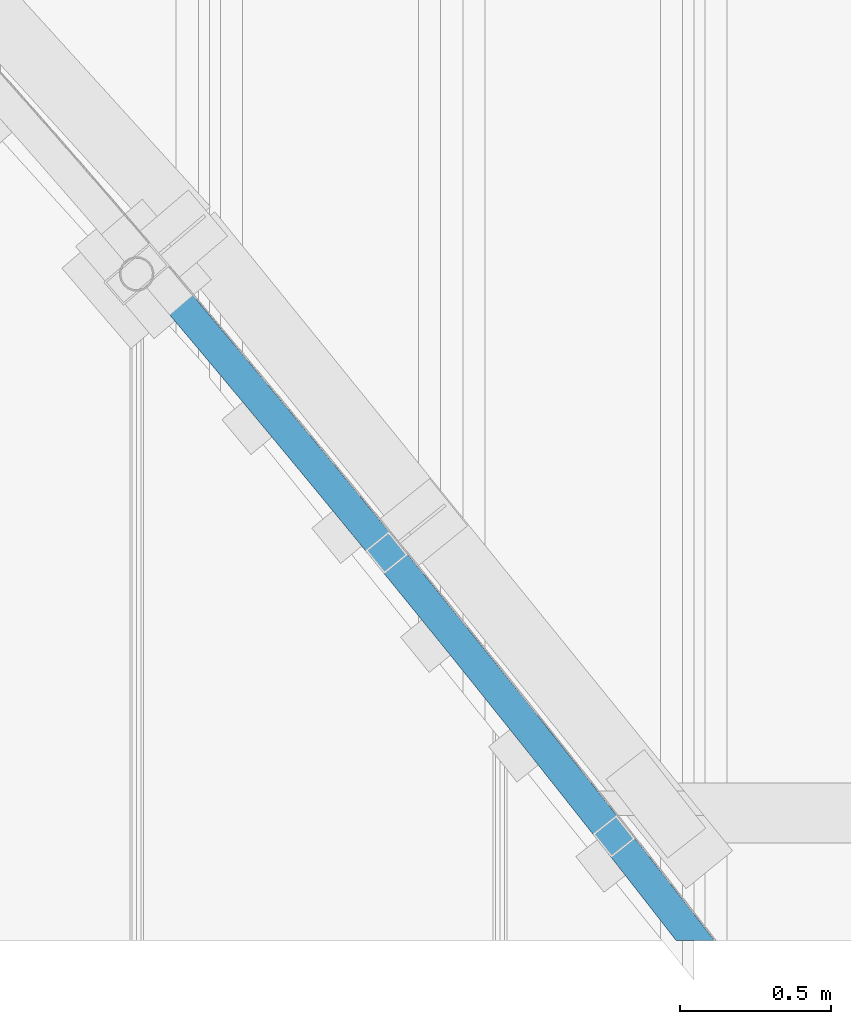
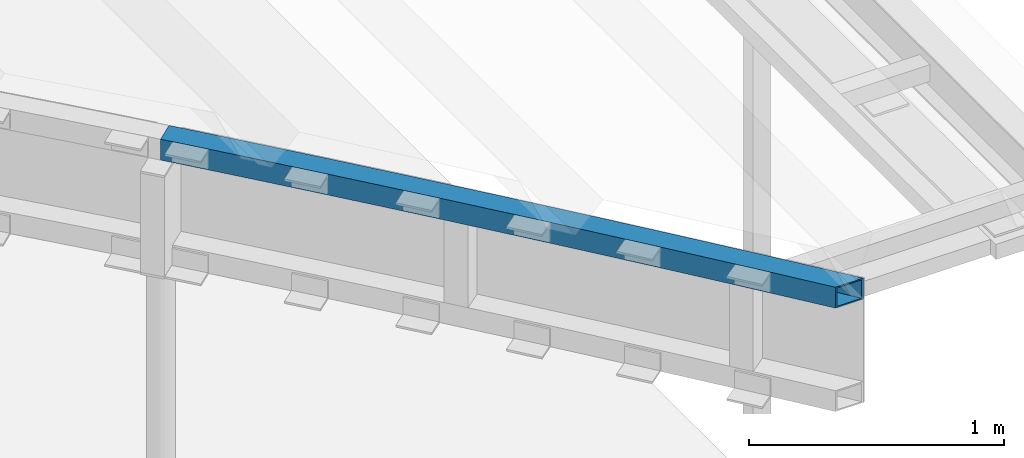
# One storey, part 21 of 98: 1 beam.
"""IFC2X3 building model written with IfcOpenShell, lengths in millimetres."""

from ifc_helpers import new_model, entity, si_unit, converted_unit, derived_unit, direction, frame, origin_with_axes, place, context, subcontext, project, spatial, faceted_brep, type_object, element, save


model = new_model("IFC2X3")

# Units and contexts
model_context = context("Model", 3, precision=0.01, world=frame((0.0, 4.29681676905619e-09, 0.0)), true_north=direction((4.01073788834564e-13, 1.0)))
plan_context = context("Plan", 3, precision=0.01, world=frame((0.0, 4.29681676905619e-09, 0.0)), true_north=direction((4.01073788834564e-13, 1.0)))
body_context = subcontext(model_context, "Body", "Model", "MODEL_VIEW")
ifc_project = project(units=[converted_unit("PLANEANGLEUNIT", "DEGREE", entity("IfcPositiveLengthMeasure", 0.0174532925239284), si_unit("PLANEANGLEUNIT", "RADIAN"), dimensions=[0, 0, 0, 0, 0, 0, 0]), si_unit("AREAUNIT", "SQUARE_METRE"), si_unit("LENGTHUNIT", "METRE", prefix="MILLI"), si_unit("MASSUNIT", "GRAM", prefix="KILO"), si_unit("POWERUNIT", "WATT"), si_unit("PRESSUREUNIT", "PASCAL"), si_unit("FORCEUNIT", "NEWTON", prefix="KILO"), si_unit("ELECTRICCURRENTUNIT", "AMPERE"), si_unit("THERMODYNAMICTEMPERATUREUNIT", "DEGREE_CELSIUS"), si_unit("TIMEUNIT", "SECOND"), si_unit("VOLUMEUNIT", "CUBIC_METRE"), derived_unit("LINEARVELOCITYUNIT", [(si_unit("LENGTHUNIT", "METRE"), 1), (si_unit("TIMEUNIT", "SECOND"), -1)]), derived_unit("VOLUMETRICFLOWRATEUNIT", [(si_unit("VOLUMEUNIT", "CUBIC_METRE"), 1), (si_unit("TIMEUNIT", "SECOND"), -1)]), derived_unit("THERMALTRANSMITTANCEUNIT", [(si_unit("POWERUNIT", "WATT"), 1), (si_unit("THERMODYNAMICTEMPERATUREUNIT", "KELVIN"), -1), (si_unit("AREAUNIT", "SQUARE_METRE"), -1)])], contexts=[model_context, plan_context])

# Site, building, storey
site_placement = place(None, frame((0.0, -4.29681676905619e-09, 0.0), z_axis=(0.0, 0.0, 1.0), x_axis=(1.0, 0.0, 0.0)))
site = spatial("IfcSite", under=ifc_project, at=site_placement, Name="Gardermoen", CompositionType="ELEMENT")
building_placement = place(site_placement, frame((0.0, 4.29681676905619e-09, 0.0), z_axis=(0.0, 0.0, 1.0), x_axis=(1.0, 0.0, 0.0)))
building = spatial("IfcBuilding", under=site, at=building_placement, Name="TS", CompositionType="ELEMENT")
storey_placement = place(building_placement, origin_with_axes())
storey = spatial("IfcBuildingStorey", under=building, at=storey_placement, Name="D", CompositionType="ELEMENT", Elevation=0.0)

# Beam
beam_type = type_object("IfcBeamType", Name="RHS100*6.3", PredefinedType="NOTDEFINED")
beam_placement = place(storey_placement, frame((529157.519512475, 402932.753920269, 207050.0), z_axis=(0.0, 0.0, 1.0), x_axis=(0.616783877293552, -0.787132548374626, 0.0)))
element("IfcBeam", 1, at=beam_placement, inside=storey, type_object=beam_type, Name="STÅLBJELKE", ObjectType="RHS100*6.3", context=body_context, shape_type="Brep", body=[
    faceted_brep([(-96.4603273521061, 46.525295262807, 50.0), (-92.7550461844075, -53.4060356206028, 50.0), (-187.286511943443, -56.9785677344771, 50.0), (-191.134234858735, 42.9473799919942, 50.0), (-1.78141594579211, 49.9682554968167, 50.0), (1.78141594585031, -49.9682554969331, 50.0), (92.9023069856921, 53.2762536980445, 50.0), (96.3226823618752, -46.6652343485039, 50.0), (187.590649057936, 56.4492831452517, 50.0), (190.868560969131, -43.4969788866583, 50.0), (282.283417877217, 59.4873373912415, 50.0), (285.418859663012, -40.4634955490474, 50.0), (376.980421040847, 62.3904102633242, 50.0), (379.97338633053, -37.5647904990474, 50.0), (471.681466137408, 65.1584958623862, 50.0), (474.531948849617, -34.8008696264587, 50.0), (566.386360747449, 67.7915885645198, 50.0), (569.094355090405, -32.1717385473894, 50.0), (661.094912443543, 70.2896830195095, 50.0), (663.660412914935, -29.6774026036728, 50.0), (755.806928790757, 72.6527741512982, 50.0), (758.229930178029, -27.3178668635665, 50.0), (850.522217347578, 74.8808571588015, 50.0), (852.802714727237, -25.0931361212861, 50.0), (945.24058566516, 76.9739275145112, 50.0), (947.37857440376, -23.0032148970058, 50.0), (1039.96184128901, 78.9319809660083, 50.0), (1041.9573170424, -21.0481074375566, 50.0), (1134.68579175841, 80.75501353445, 50.0), (1136.53875047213, -19.2278177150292, 50.0), (1229.41224460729, 82.4430215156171, 50.0), (1231.12268251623, -17.5423494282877, 50.0), (1324.14100736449, 83.9960014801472, 50.0), (1325.70892099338, -15.9917060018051, 50.0), (1418.87188755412, 85.4139502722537, 50.0), (1420.29727371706, -14.5758905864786, 50.0), (1513.60469269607, 86.6968650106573, 50.0), (1514.887548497, -13.2949060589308, 50.0), (1608.3392303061, 87.8447430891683, 50.0), (1609.47955313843, -12.1487550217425, 50.0), (1703.07530789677, 88.8575821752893, 50.0), (1704.07309544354, -11.1374398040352, 50.0), (1797.81273297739, 89.7353802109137, 50.0), (1798.66798321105, -10.2609624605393, 50.0), (1892.55131305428, 90.4781354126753, 50.0), (1893.26402423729, -9.51932477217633, 50.0), (1987.29085563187, 91.0858462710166, 50.0), (1987.86102631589, -8.91252824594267, 50.0), (2082.03116821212, 91.5585115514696, 50.0), (2082.45879723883, -8.44057411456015, 50.0), (2176.77205829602, 91.8961302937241, 50.0), (2177.05714479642, -8.10346333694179, 50.0), (2271.51333338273, 92.098701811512, 50.0), (2271.65587677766, -7.90119659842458, 50.0), (2366.25480097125, 92.1662256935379, 50.0), (2366.25480097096, -7.83377430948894, 50.0), (2460.99626855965, 92.0987018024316, 50.0), (2460.85372516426, -7.90119660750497, 50.0), (2555.73754364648, 91.8961302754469, 50.0), (2555.4524571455, -8.10346335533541, 50.0), (2650.07917790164, -1.80563186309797, 50.0), (2644.89454651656, -8.42219929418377, 50.0), (2650.47843373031, 91.5585115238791, 50.0), (2722.95442276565, 91.1969243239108, 50.0), (-191.91472664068, 42.9167694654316, 50.0), (-96.4603273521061, 46.525295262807, -50.0), (-191.134234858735, 42.9473799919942, -50.0), (-1.78141594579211, 49.9682554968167, -50.0), (92.9023069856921, 53.2762536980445, -50.0), (187.590649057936, 56.4492831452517, -50.0), (282.283417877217, 59.4873373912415, -50.0), (376.980421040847, 62.3904102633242, -50.0), (471.681466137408, 65.1584958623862, -50.0), (566.386360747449, 67.7915885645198, -50.0), (661.094912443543, 70.2896830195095, -50.0), (755.806928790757, 72.6527741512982, -50.0), (850.522217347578, 74.8808571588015, -50.0), (945.24058566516, 76.9739275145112, -50.0), (1039.96184128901, 78.9319809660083, -50.0), (1134.68579175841, 80.75501353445, -50.0), (1229.41224460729, 82.4430215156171, -50.0), (1324.14100736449, 83.9960014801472, -50.0), (1418.87188755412, 85.4139502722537, -50.0), (1513.60469269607, 86.6968650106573, -50.0), (1608.3392303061, 87.8447430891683, -50.0), (1703.07530789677, 88.8575821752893, -50.0), (1797.81273297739, 89.7353802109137, -50.0), (1892.55131305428, 90.4781354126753, -50.0), (1987.29085563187, 91.0858462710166, -50.0), (2082.03116821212, 91.5585115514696, -50.0), (2176.77205829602, 91.8961302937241, -50.0), (2271.51333338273, 92.098701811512, -50.0), (2366.25480097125, 92.1662256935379, -50.0), (2460.99626855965, 92.0987018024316, -50.0), (2555.73754364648, 91.8961302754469, -50.0), (2650.47843373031, 91.5585115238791, -50.0), (2722.95442276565, 91.1969243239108, -50.0), (-191.91472664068, 42.9167694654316, -50.0), (-92.7550461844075, -53.4060356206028, -50.0), (-187.286511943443, -56.9785677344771, -50.0), (1.78141594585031, -49.9682554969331, -50.0), (96.3226823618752, -46.6652343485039, -50.0), (190.868560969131, -43.4969788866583, -50.0), (285.418859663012, -40.4634955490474, -50.0), (379.97338633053, -37.5647904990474, -50.0), (474.531948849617, -34.8008696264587, -50.0), (569.094355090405, -32.1717385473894, -50.0), (663.660412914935, -29.6774026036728, -50.0), (758.229930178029, -27.3178668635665, -50.0), (852.802714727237, -25.0931361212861, -50.0), (947.37857440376, -23.0032148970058, -50.0), (1041.9573170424, -21.0481074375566, -50.0), (1136.53875047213, -19.2278177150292, -50.0), (1231.12268251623, -17.5423494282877, -50.0), (1325.70892099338, -15.9917060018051, -50.0), (1420.29727371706, -14.5758905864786, -50.0), (1514.887548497, -13.2949060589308, -50.0), (1609.47955313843, -12.1487550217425, -50.0), (1704.07309544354, -11.1374398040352, -50.0), (1798.66798321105, -10.2609624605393, -50.0), (1893.26402423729, -9.51932477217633, -50.0), (1987.86102631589, -8.91252824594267, -50.0), (2082.45879723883, -8.44057411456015, -50.0), (2177.05714479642, -8.10346333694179, -50.0), (2271.65587677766, -7.90119659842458, -50.0), (2366.25480097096, -7.83377430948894, -50.0), (2460.85372516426, -7.90119660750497, -50.0), (2555.4524571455, -8.10346335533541, -50.0), (2644.89454651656, -8.42219929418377, -50.0), (2650.07917790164, -1.80563186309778, -50.0), (-191.6362580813, 36.6228489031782, -43.6999998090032), (-191.6362580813, 36.6228489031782, 43.6999998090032), (-190.891828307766, 36.6520450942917, 43.6999998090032), (-190.891828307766, 36.6520450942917, -43.6999998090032), (-96.226894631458, 40.2296212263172, 43.6999998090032), (-96.226894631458, 40.2296212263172, -43.6999998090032), (-1.55695752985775, 43.6722551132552, 43.6999998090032), (-1.55695752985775, 43.6722551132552, -43.6999998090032), (93.1177906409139, 46.979939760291, 43.6999998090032), (93.1177906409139, 46.979939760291, -43.6999998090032), (187.797157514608, 50.1526684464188, 43.6999998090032), (187.797157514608, 50.1526684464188, -43.6999998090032), (282.480950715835, 53.1904347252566, 43.6999998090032), (282.480950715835, 53.1904347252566, -43.6999998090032), (377.168977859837, 56.0932324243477, 43.6999998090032), (377.168977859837, 56.0932324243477, -43.6999998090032), (471.861046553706, 58.8610556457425, 43.6999998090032), (471.861046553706, 58.8610556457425, -43.6999998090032), (566.556964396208, 61.4938987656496, 43.6999998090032), (566.556964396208, 61.4938987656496, -43.6999998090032), (661.256538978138, 63.9917564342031, 43.6999998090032), (661.256538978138, 63.9917564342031, -43.6999998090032), (755.959577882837, 66.3546235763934, 43.6999998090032), (755.959577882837, 66.3546235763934, -43.6999998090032), (850.665888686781, 68.5824953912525, 43.6999998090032), (850.665888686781, 68.5824953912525, -43.6999998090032), (945.375278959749, 70.6753673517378, 43.6999998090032), (945.375278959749, 70.6753673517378, -43.6999998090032), (1040.08755626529, 72.633235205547, 43.6999998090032), (1040.08755626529, 72.633235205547, -43.6999998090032), (1134.80252816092, 74.4560949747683, 43.6999998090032), (1134.80252816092, 74.4560949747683, -43.6999998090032), (1229.52000219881, 76.1439429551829, 43.6999998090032), (1229.52000219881, 76.1439429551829, -43.6999998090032), (1324.23978592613, 77.6967757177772, 43.6999998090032), (1324.23978592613, 77.6967757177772, -43.6999998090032), (1418.96168688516, 79.1145901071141, 43.6999998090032), (1418.96168688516, 79.1145901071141, -43.6999998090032), (1513.68551261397, 80.3973832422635, 43.6999998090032), (1513.68551261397, 80.3973832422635, -43.6999998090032), (1608.41107064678, 81.5451525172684, 43.6999998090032), (1608.41107064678, 81.5451525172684, -43.6999998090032), (1703.13816851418, 82.5578955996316, 43.6999998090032), (1703.13816851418, 82.5578955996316, -43.6999998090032), (1797.86661374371, 83.4356104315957, 43.6999998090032), (1797.86661374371, 83.4356104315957, -43.6999998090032), (1892.5962138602, 84.1782952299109, 43.6999998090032), (1892.5962138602, 84.1782952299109, -43.6999998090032), (1987.32677638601, 84.7859484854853, 43.6999998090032), (1987.32677638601, 84.7859484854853, -43.6999998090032), (2082.05810884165, 85.258568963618, 43.6999998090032), (2082.05810884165, 85.258568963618, -43.6999998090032), (2176.79001874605, 85.5961557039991, 43.6999998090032), (2176.79001874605, 85.5961557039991, -43.6999998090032), (2271.52231361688, 85.7987080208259, 43.6999998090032), (2271.52231361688, 85.7987080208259, -43.6999998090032), (2366.25480097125, 85.8662255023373, 43.6999998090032), (2366.25480097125, 85.8662255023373, -43.6999998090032), (2460.98728832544, 85.7987080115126, 43.6999998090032), (2460.98728832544, 85.7987080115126, -43.6999998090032), (2555.71958319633, 85.5961556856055, 43.6999998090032), (2555.71958319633, 85.5961556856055, -43.6999998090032), (2650.45149310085, 85.2585689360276, 43.6999998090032), (2650.45149310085, 85.2585689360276, -43.6999998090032), (2718.03701184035, 84.9213805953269, 43.6999998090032), (2718.03701184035, 84.9213805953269, -43.6999998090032), (-187.52891849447, -50.6832328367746, -43.6999998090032), (-92.9884789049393, -47.1103615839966, -43.6999998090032), (1.55695752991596, -43.6722551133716, -43.6999998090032), (96.1071987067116, -40.368920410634, -43.6999998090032), (190.66205251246, -37.2003641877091, -43.6999998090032), (285.22132682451, -34.1665928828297, -43.6999998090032), (379.784829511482, -31.2676126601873, -43.6999998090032), (474.352368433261, -28.503429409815, -43.6999998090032), (568.923751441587, -25.8740487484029, -43.6999998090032), (663.49878638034, -23.3794760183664, -43.6999998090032), (758.077281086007, -21.0197162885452, -43.6999998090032), (852.659043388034, -18.7947743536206, -43.6999998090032), (947.243881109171, -16.7046547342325, -43.6999998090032), (1041.83160206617, -14.7493616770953, -43.6999998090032), (1136.42201406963, -12.9288991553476, -43.6999998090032), (1231.0149249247, -11.2432708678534, -43.6999998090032), (1325.61014243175, -9.69248023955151, -43.6999998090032), (1420.20747438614, -8.27653042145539, -43.6999998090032), (1514.80672857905, -6.9954242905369, -43.6999998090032), (1609.40771279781, -5.84916444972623, -43.6999998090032), (1704.01023482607, -4.83775322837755, -43.6999998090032), (1798.61410244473, -3.96119268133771, -43.6999998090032), (1893.21912343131, -3.21948458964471, -43.6999998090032), (1987.82510556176, -2.61263046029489, -43.6999998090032), (2082.43185660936, -2.14063152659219, -43.6999998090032), (2177.03918434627, -1.80348874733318, -43.6999998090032), (2271.64689654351, -1.60120280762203, -43.6999998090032), (2366.25480097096, -1.53377411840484, -43.6999998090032), (2460.86270539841, -1.60120281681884, -43.6999998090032), (2555.47041759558, -1.8034887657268, -43.6999998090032), (2650.07917790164, -1.80563186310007, -43.6999998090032), (2649.81740472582, -2.13970380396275, -43.6999998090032), (-92.9884789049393, -47.1103615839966, 43.6999998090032), (-187.52891849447, -50.6832328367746, 43.6999998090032), (1.55695752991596, -43.6722551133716, 43.6999998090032), (96.1071987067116, -40.368920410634, 43.6999998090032), (190.66205251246, -37.2003641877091, 43.6999998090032), (285.22132682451, -34.1665928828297, 43.6999998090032), (379.784829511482, -31.2676126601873, 43.6999998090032), (474.352368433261, -28.503429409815, 43.6999998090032), (568.923751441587, -25.8740487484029, 43.6999998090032), (663.49878638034, -23.3794760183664, 43.6999998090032), (758.077281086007, -21.0197162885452, 43.6999998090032), (852.659043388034, -18.7947743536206, 43.6999998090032), (947.243881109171, -16.7046547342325, 43.6999998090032), (1041.83160206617, -14.7493616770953, 43.6999998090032), (1136.42201406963, -12.9288991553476, 43.6999998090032), (1231.0149249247, -11.2432708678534, 43.6999998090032), (1325.61014243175, -9.69248023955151, 43.6999998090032), (1420.20747438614, -8.27653042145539, 43.6999998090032), (1514.80672857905, -6.9954242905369, 43.6999998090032), (1609.40771279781, -5.84916444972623, 43.6999998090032), (1704.01023482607, -4.83775322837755, 43.6999998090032), (1798.61410244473, -3.96119268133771, 43.6999998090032), (1893.21912343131, -3.21948458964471, 43.6999998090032), (1987.82510556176, -2.61263046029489, 43.6999998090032), (2082.43185660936, -2.14063152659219, 43.6999998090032), (2177.03918434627, -1.80348874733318, 43.6999998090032), (2271.64689654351, -1.60120280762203, 43.6999998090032), (2366.25480097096, -1.53377411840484, 43.6999998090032), (2460.86270539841, -1.60120281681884, 43.6999998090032), (2555.47041759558, -1.8034887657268, 43.6999998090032), (2649.81740472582, -2.13970380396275, 43.6999998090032), (2650.07917790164, -1.80563186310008, 43.6999998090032)], [[[0, 1, 2, 3]], [[4, 5, 1, 0]], [[6, 7, 5, 4]], [[8, 9, 7, 6]], [[10, 11, 9, 8]], [[12, 13, 11, 10]], [[14, 15, 13, 12]], [[16, 17, 15, 14]], [[18, 19, 17, 16]], [[20, 21, 19, 18]], [[22, 23, 21, 20]], [[24, 25, 23, 22]], [[26, 27, 25, 24]], [[28, 29, 27, 26]], [[30, 31, 29, 28]], [[32, 33, 31, 30]], [[34, 35, 33, 32]], [[36, 37, 35, 34]], [[38, 39, 37, 36]], [[40, 41, 39, 38]], [[42, 43, 41, 40]], [[44, 45, 43, 42]], [[46, 47, 45, 44]], [[48, 49, 47, 46]], [[50, 51, 49, 48]], [[52, 53, 51, 50]], [[54, 55, 53, 52]], [[56, 57, 55, 54]], [[58, 59, 57, 56]], [[60, 61, 59, 58, 62]], [[63, 60, 62]], [[2, 64, 3]], [[65, 0, 3, 66]], [[67, 4, 0, 65]], [[68, 6, 4, 67]], [[69, 8, 6, 68]], [[70, 10, 8, 69]], [[71, 12, 10, 70]], [[72, 14, 12, 71]], [[73, 16, 14, 72]], [[74, 18, 16, 73]], [[75, 20, 18, 74]], [[76, 22, 20, 75]], [[77, 24, 22, 76]], [[78, 26, 24, 77]], [[79, 28, 26, 78]], [[80, 30, 28, 79]], [[81, 32, 30, 80]], [[82, 34, 32, 81]], [[83, 36, 34, 82]], [[84, 38, 36, 83]], [[85, 40, 38, 84]], [[86, 42, 40, 85]], [[87, 44, 42, 86]], [[88, 46, 44, 87]], [[89, 48, 46, 88]], [[90, 50, 48, 89]], [[91, 52, 50, 90]], [[92, 54, 52, 91]], [[93, 56, 54, 92]], [[94, 58, 56, 93]], [[95, 62, 58, 94]], [[96, 63, 62, 95]], [[64, 97, 66, 3]], [[98, 65, 66, 99]], [[100, 67, 65, 98]], [[101, 68, 67, 100]], [[102, 69, 68, 101]], [[103, 70, 69, 102]], [[104, 71, 70, 103]], [[105, 72, 71, 104]], [[106, 73, 72, 105]], [[107, 74, 73, 106]], [[108, 75, 74, 107]], [[109, 76, 75, 108]], [[110, 77, 76, 109]], [[111, 78, 77, 110]], [[112, 79, 78, 111]], [[113, 80, 79, 112]], [[114, 81, 80, 113]], [[115, 82, 81, 114]], [[116, 83, 82, 115]], [[117, 84, 83, 116]], [[118, 85, 84, 117]], [[119, 86, 85, 118]], [[120, 87, 86, 119]], [[121, 88, 87, 120]], [[122, 89, 88, 121]], [[123, 90, 89, 122]], [[124, 91, 90, 123]], [[125, 92, 91, 124]], [[126, 93, 92, 125]], [[127, 94, 93, 126]], [[128, 129, 95, 94, 127]], [[129, 96, 95]], [[97, 99, 66]], [[64, 2, 99, 97]], [[99, 2, 1, 98]], [[5, 100, 98, 1]], [[7, 101, 100, 5]], [[9, 102, 101, 7]], [[11, 103, 102, 9]], [[13, 104, 103, 11]], [[15, 105, 104, 13]], [[17, 106, 105, 15]], [[19, 107, 106, 17]], [[21, 108, 107, 19]], [[23, 109, 108, 21]], [[25, 110, 109, 23]], [[27, 111, 110, 25]], [[29, 112, 111, 27]], [[31, 113, 112, 29]], [[33, 114, 113, 31]], [[35, 115, 114, 33]], [[37, 116, 115, 35]], [[39, 117, 116, 37]], [[41, 118, 117, 39]], [[43, 119, 118, 41]], [[45, 120, 119, 43]], [[47, 121, 120, 45]], [[49, 122, 121, 47]], [[51, 123, 122, 49]], [[53, 124, 123, 51]], [[55, 125, 124, 53]], [[57, 126, 125, 55]], [[59, 127, 126, 57]], [[61, 128, 127, 59]], [[130, 131, 132, 133]], [[134, 135, 133, 132]], [[136, 137, 135, 134]], [[138, 139, 137, 136]], [[140, 141, 139, 138]], [[142, 143, 141, 140]], [[144, 145, 143, 142]], [[146, 147, 145, 144]], [[148, 149, 147, 146]], [[150, 151, 149, 148]], [[152, 153, 151, 150]], [[154, 155, 153, 152]], [[156, 157, 155, 154]], [[158, 159, 157, 156]], [[160, 161, 159, 158]], [[162, 163, 161, 160]], [[164, 165, 163, 162]], [[166, 167, 165, 164]], [[168, 169, 167, 166]], [[170, 171, 169, 168]], [[172, 173, 171, 170]], [[174, 175, 173, 172]], [[176, 177, 175, 174]], [[178, 179, 177, 176]], [[180, 181, 179, 178]], [[182, 183, 181, 180]], [[184, 185, 183, 182]], [[186, 187, 185, 184]], [[188, 189, 187, 186]], [[190, 191, 189, 188]], [[192, 193, 191, 190]], [[194, 195, 193, 192]], [[196, 130, 133]], [[135, 197, 196, 133]], [[137, 198, 197, 135]], [[139, 199, 198, 137]], [[141, 200, 199, 139]], [[143, 201, 200, 141]], [[145, 202, 201, 143]], [[147, 203, 202, 145]], [[149, 204, 203, 147]], [[151, 205, 204, 149]], [[153, 206, 205, 151]], [[155, 207, 206, 153]], [[157, 208, 207, 155]], [[159, 209, 208, 157]], [[161, 210, 209, 159]], [[163, 211, 210, 161]], [[165, 212, 211, 163]], [[167, 213, 212, 165]], [[169, 214, 213, 167]], [[171, 215, 214, 169]], [[173, 216, 215, 171]], [[175, 217, 216, 173]], [[177, 218, 217, 175]], [[179, 219, 218, 177]], [[181, 220, 219, 179]], [[183, 221, 220, 181]], [[185, 222, 221, 183]], [[187, 223, 222, 185]], [[189, 224, 223, 187]], [[191, 225, 224, 189]], [[226, 227, 225, 191, 193]], [[195, 226, 193]], [[228, 134, 132, 229]], [[230, 136, 134, 228]], [[231, 138, 136, 230]], [[232, 140, 138, 231]], [[233, 142, 140, 232]], [[234, 144, 142, 233]], [[235, 146, 144, 234]], [[236, 148, 146, 235]], [[237, 150, 148, 236]], [[238, 152, 150, 237]], [[239, 154, 152, 238]], [[240, 156, 154, 239]], [[241, 158, 156, 240]], [[242, 160, 158, 241]], [[243, 162, 160, 242]], [[244, 164, 162, 243]], [[245, 166, 164, 244]], [[246, 168, 166, 245]], [[247, 170, 168, 246]], [[248, 172, 170, 247]], [[249, 174, 172, 248]], [[250, 176, 174, 249]], [[251, 178, 176, 250]], [[252, 180, 178, 251]], [[253, 182, 180, 252]], [[254, 184, 182, 253]], [[255, 186, 184, 254]], [[256, 188, 186, 255]], [[257, 190, 188, 256]], [[258, 259, 192, 190, 257]], [[259, 194, 192]], [[131, 229, 132]], [[196, 229, 131, 130]], [[229, 196, 197, 228]], [[198, 230, 228, 197]], [[199, 231, 230, 198]], [[200, 232, 231, 199]], [[201, 233, 232, 200]], [[202, 234, 233, 201]], [[203, 235, 234, 202]], [[204, 236, 235, 203]], [[205, 237, 236, 204]], [[206, 238, 237, 205]], [[207, 239, 238, 206]], [[208, 240, 239, 207]], [[209, 241, 240, 208]], [[210, 242, 241, 209]], [[211, 243, 242, 210]], [[212, 244, 243, 211]], [[213, 245, 244, 212]], [[214, 246, 245, 213]], [[215, 247, 246, 214]], [[216, 248, 247, 215]], [[217, 249, 248, 216]], [[218, 250, 249, 217]], [[219, 251, 250, 218]], [[220, 252, 251, 219]], [[221, 253, 252, 220]], [[222, 254, 253, 221]], [[223, 255, 254, 222]], [[224, 256, 255, 223]], [[225, 257, 256, 224]], [[227, 258, 257, 225]], [[63, 96, 129, 128, 61, 60], [259, 258, 227, 226, 195, 194]]], orient=[[False], [False], [False], [False], [False], [False], [False], [False], [False], [False], [False], [False], [False], [False], [False], [False], [False], [False], [False], [False], [False], [False], [False], [False], [False], [False], [False], [False], [False], [False], [False], [False], [False], [False], [False], [False], [False], [False], [False], [False], [False], [False], [False], [False], [False], [False], [False], [False], [False], [False], [False], [False], [False], [False], [False], [False], [False], [False], [False], [False], [False], [False], [False], [False], [False], [False], [False], [False], [False], [False], [False], [False], [False], [False], [False], [False], [False], [False], [False], [False], [False], [False], [False], [False], [False], [False], [False], [False], [False], [False], [False], [False], [False], [False], [False], [False], [False], [False], [False], [False], [False], [False], [False], [False], [False], [False], [False], [False], [False], [False], [False], [False], [False], [False], [False], [False], [False], [False], [False], [False], [False], [False], [False], [False], [False], [False], [False], [False], [False], [False], [False], [False], [False], [False], [False], [False], [False], [False], [False], [False], [False], [False], [False], [False], [False], [False], [False], [False], [False], [False], [False], [False], [False], [False], [False], [False], [False], [False], [False], [False], [False], [False], [False], [False], [False], [False], [False], [False], [False], [False], [False], [False], [False], [False], [False], [False], [False], [False], [False], [False], [False], [False], [False], [False], [False], [False], [False], [False], [False], [False], [False], [False], [False], [False], [False], [False], [False], [False], [False], [False], [False], [False], [False], [False], [False], [False], [False], [False], [False], [False], [False], [False], [False], [False], [False], [False], [False], [False], [False], [False], [False], [False], [False], [False], [False], [False], [False], [False], [False], [False], [False], [False], [False], [False], [False], [False], [False], [False], [False], [False], [False], [False], [False], [False], [False], [False], [False], [False], [False], [False], [False], [False], [False], [False], [False, False]]),
])

save(model, "model.ifc")
